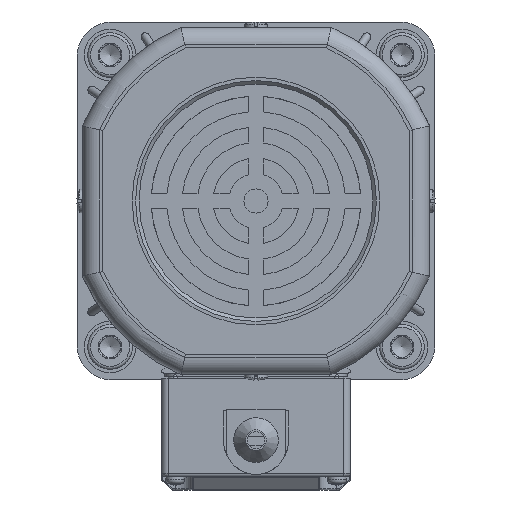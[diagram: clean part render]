
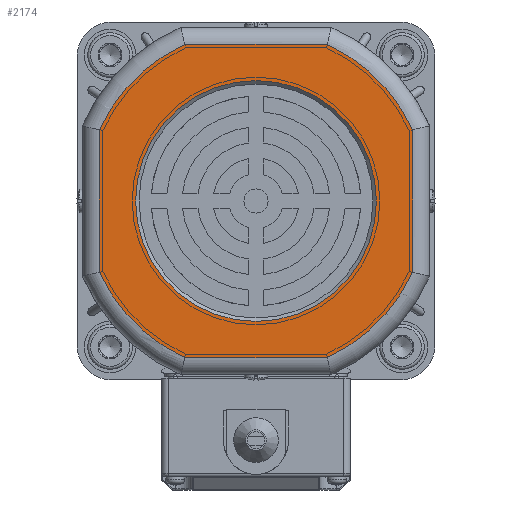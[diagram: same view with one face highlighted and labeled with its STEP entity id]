
A CAD part, left-side view. The second image highlights one B-rep face of the part: STEP entity #2174.
In plain terms, the highlighted planar face has unit normal (-1, 0, 0).
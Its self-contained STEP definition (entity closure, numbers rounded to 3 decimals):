
#624=FACE_BOUND('',#6098,.T.);
#625=FACE_BOUND('',#6099,.T.);
#2174=ADVANCED_FACE('',(#624,#625),#3804,.F.);
#3804=PLANE('',#30026);
#6098=EDGE_LOOP('',(#12522));
#6099=EDGE_LOOP('',(#12523,#12524,#12525,#12526,#12527,#12528,#12529,#12530));
#8053=LINE('',#41518,#9920);
#8054=LINE('',#41534,#9921);
#8057=LINE('',#41586,#9924);
#8058=LINE('',#41602,#9925);
#9920=VECTOR('',#33023,1.);
#9921=VECTOR('',#33026,1.);
#9924=VECTOR('',#33043,1.);
#9925=VECTOR('',#33046,1.);
#12522=ORIENTED_EDGE('',*,*,#23035,.T.);
#12523=ORIENTED_EDGE('',*,*,#23045,.T.);
#12524=ORIENTED_EDGE('',*,*,#23040,.T.);
#12525=ORIENTED_EDGE('',*,*,#23047,.T.);
#12526=ORIENTED_EDGE('',*,*,#23053,.T.);
#12527=ORIENTED_EDGE('',*,*,#23059,.T.);
#12528=ORIENTED_EDGE('',*,*,#23061,.T.);
#12529=ORIENTED_EDGE('',*,*,#23057,.T.);
#12530=ORIENTED_EDGE('',*,*,#23051,.T.);
#20210=VERTEX_POINT('',#41463);
#20215=VERTEX_POINT('',#41485);
#20216=VERTEX_POINT('',#41487);
#20218=VERTEX_POINT('',#41515);
#20221=VERTEX_POINT('',#41533);
#20222=VERTEX_POINT('',#41549);
#20225=VERTEX_POINT('',#41567);
#20226=VERTEX_POINT('',#41583);
#20229=VERTEX_POINT('',#41601);
#23035=EDGE_CURVE('',#20210,#20210,#28224,.T.);
#23040=EDGE_CURVE('',#20216,#20215,#28228,.T.);
#23045=EDGE_CURVE('',#20218,#20216,#8053,.T.);
#23047=EDGE_CURVE('',#20215,#20221,#8054,.T.);
#23051=EDGE_CURVE('',#20222,#20218,#28231,.T.);
#23053=EDGE_CURVE('',#20221,#20225,#28232,.T.);
#23057=EDGE_CURVE('',#20226,#20222,#8057,.T.);
#23059=EDGE_CURVE('',#20225,#20229,#8058,.T.);
#23061=EDGE_CURVE('',#20229,#20226,#28234,.T.);
#28224=CIRCLE('',#29764,35.);
#28228=CIRCLE('',#29770,50.);
#28231=CIRCLE('',#29776,50.);
#28232=CIRCLE('',#29778,50.);
#28234=CIRCLE('',#29783,50.);
#29764=AXIS2_PLACEMENT_3D('',#41462,#33004,#33005);
#29770=AXIS2_PLACEMENT_3D('',#41486,#33016,#33017);
#29776=AXIS2_PLACEMENT_3D('',#41552,#33032,#33033);
#29778=AXIS2_PLACEMENT_3D('',#41568,#33036,#33037);
#29783=AXIS2_PLACEMENT_3D('',#41605,#33050,#33051);
#30026=AXIS2_PLACEMENT_3D('',#42354,#33728,#33729);
#33004=DIRECTION('',(1.,0.,0.));
#33005=DIRECTION('',(0.,-1.,0.));
#33016=DIRECTION('',(-1.,0.,0.));
#33017=DIRECTION('',(0.,0.,1.));
#33023=DIRECTION('',(0.,-1.,0.));
#33026=DIRECTION('',(0.,0.,1.));
#33032=DIRECTION('',(-1.,0.,0.));
#33033=DIRECTION('',(0.,0.,1.));
#33036=DIRECTION('',(-1.,0.,0.));
#33037=DIRECTION('',(0.,0.,1.));
#33043=DIRECTION('',(0.,0.,-1.));
#33046=DIRECTION('',(0.,1.,0.));
#33050=DIRECTION('',(-1.,0.,0.));
#33051=DIRECTION('',(0.,0.,1.));
#33728=DIRECTION('',(1.,0.,0.));
#33729=DIRECTION('',(0.,0.,1.));
#41462=CARTESIAN_POINT('',(-251.8,-120.671,-58.491));
#41463=CARTESIAN_POINT('',(-251.8,-155.671,-58.491));
#41485=CARTESIAN_POINT('',(-251.8,-166.171,-79.221));
#41486=CARTESIAN_POINT('',(-251.8,-120.671,-58.491));
#41487=CARTESIAN_POINT('',(-251.8,-141.402,-103.991));
#41515=CARTESIAN_POINT('',(-251.8,-99.941,-103.991));
#41518=CARTESIAN_POINT('',(-251.8,-142.46,-103.991));
#41533=CARTESIAN_POINT('',(-251.8,-166.171,-37.76));
#41534=CARTESIAN_POINT('',(-251.8,-166.171,-36.702));
#41549=CARTESIAN_POINT('',(-251.8,-75.171,-79.221));
#41552=CARTESIAN_POINT('',(-251.8,-120.671,-58.491));
#41567=CARTESIAN_POINT('',(-251.8,-141.402,-12.991));
#41568=CARTESIAN_POINT('',(-251.8,-120.671,-58.491));
#41583=CARTESIAN_POINT('',(-251.8,-75.171,-37.76));
#41586=CARTESIAN_POINT('',(-251.8,-75.171,-80.28));
#41601=CARTESIAN_POINT('',(-251.8,-99.941,-12.991));
#41602=CARTESIAN_POINT('',(-251.8,-98.882,-12.991));
#41605=CARTESIAN_POINT('',(-251.8,-120.671,-58.491));
#42354=CARTESIAN_POINT('',(-251.8,-120.671,-58.491));
